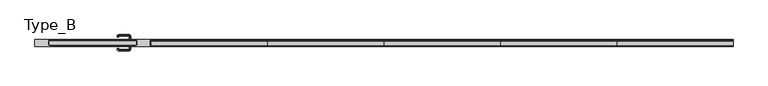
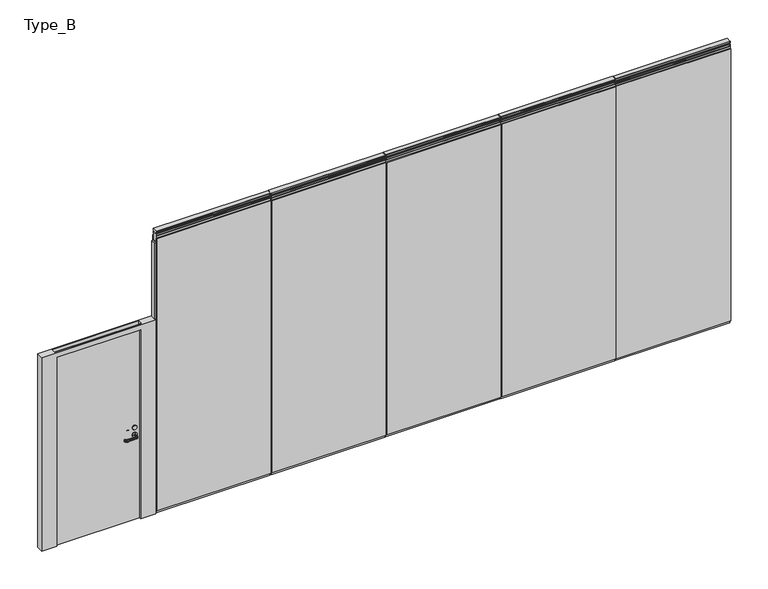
"""IFC4 building model written with IfcOpenShell, lengths in millimetres: proxy geometry, Planner Wall フラッシュパネル(Door) : Type_B."""

from ifc_helpers import new_model, si_unit, point, frame, frame_2d, origin, origin_with_axes, place, context, project, spatial, polyline, circle_curve, ellipse_curve, trimmed, segment, composite_curve, outline, extrude, faceted_brep, source, transform, mapped, element, save
from ifc_brep_helpers import plane_surface, cylinder_surface, revolved_surface, advanced_brep


def type_b_3c586b7c(model_context):
    return source(origin(), model_context, "Body", "SolidModel", [
        extrude(outline(polyline([(2369.2142857, 25.0), (1199.3571429, 25.0), (1199.3571429, 35.0), (2369.2142857, 35.0), (2369.2142857, 25.0)])), frame((0.0, 0.0, 25.0), z_axis=(0.0, 0.0, 1.0), x_axis=(1.0, 0.0, 0.0)), (0.0, 0.0, 1.0), 2950.0),
        extrude(outline(polyline([(2369.2142857, -35.0), (1199.3571429, -35.0), (1199.3571429, -25.0), (2369.2142857, -25.0), (2369.2142857, -35.0)])), frame((0.0, 0.0, 25.0), z_axis=(0.0, 0.0, 1.0), x_axis=(1.0, 0.0, 0.0)), (0.0, 0.0, 1.0), 2950.0),
        extrude(outline(polyline([(1199.3571429, -25.0), (1199.3571429, 25.0), (2363.7142857, 25.0), (2363.7142857, -25.0), (1199.3571429, -25.0)])), origin_with_axes(), (0.0, 0.0, 1.0), 65.0),
        extrude(outline(composite_curve([segment(polyline([(23.5, 3050.1000003), (26.5, 3047.1000003), (26.5, 3032.6)]), True, "CONTINUOUS"), segment(trimmed(circle_curve(frame_2d((25.0, 3032.6)), 1.5), [point((26.5, 3032.6))], [point((25.0, 3031.1))], False, "CARTESIAN"), True, "CONTINUOUS"), segment(polyline([(25.0, 3031.1), (9.0, 3031.1), (9.0, 3019.1000003), (23.5, 3019.1000003), (26.5, 3016.1000003), (26.5, 3001.5)]), True, "CONTINUOUS"), segment(trimmed(circle_curve(frame_2d((25.0, 3001.5)), 1.5), [point((26.5, 3001.5))], [point((25.0, 3000.0))], False, "CARTESIAN"), True, "CONTINUOUS"), segment(polyline([(25.0, 3000.0), (7.5, 3000.0), (7.5, 2994.5), (25.0, 2994.5), (25.0, 2935.0), (-25.0, 2935.0), (-25.0, 2994.5), (-7.5, 2994.5), (-7.5, 3000.0), (-25.0, 3000.0)]), True, "CONTINUOUS"), segment(trimmed(circle_curve(frame_2d((-25.0, 3001.5)), 1.5), [point((-25.0, 3000.0))], [point((-26.5, 3001.5))], False, "CARTESIAN"), True, "CONTINUOUS"), segment(polyline([(-26.5, 3001.5), (-26.5, 3016.1000003), (-23.5, 3019.1000003), (-9.0, 3019.1000003), (-9.0, 3031.1), (-25.0, 3031.1)]), True, "CONTINUOUS"), segment(trimmed(circle_curve(frame_2d((-25.0, 3032.6)), 1.5), [point((-25.0, 3031.1))], [point((-26.5, 3032.6))], False, "CARTESIAN"), True, "CONTINUOUS"), segment(polyline([(-26.5, 3032.6), (-26.5, 3047.1000003), (-23.5, 3050.1000003), (23.5, 3050.1000003)]), True, "CONTINUOUS")], self_intersect=False)), frame((1199.3571429, 0.0, 0.0), z_axis=(1.0, 0.0, 0.0), x_axis=(0.0, 1.0, 0.0)), (0.0, 0.0, 1.0), 1169.8571429),
        extrude(outline(polyline([(1185.8571429, -25.0), (1185.8571429, 25.0), (1199.3571429, 25.0), (1199.3571429, -25.0), (1185.8571429, -25.0)])), frame((0.0, 0.0, 53.0), z_axis=(0.0, 0.0, 1.0), x_axis=(1.0, 0.0, 0.0)), (0.0, 0.0, 1.0), 2869.0),
        extrude(outline(polyline([(3547.0714286, 25.0), (2377.2142857, 25.0), (2377.2142857, 35.0), (3547.0714286, 35.0), (3547.0714286, 25.0)])), frame((0.0, 0.0, 25.0), z_axis=(0.0, 0.0, 1.0), x_axis=(1.0, 0.0, 0.0)), (0.0, 0.0, 1.0), 2950.0),
        extrude(outline(polyline([(3547.0714286, -35.0), (2377.2142857, -35.0), (2377.2142857, -25.0), (3547.0714286, -25.0), (3547.0714286, -35.0)])), frame((0.0, 0.0, 25.0), z_axis=(0.0, 0.0, 1.0), x_axis=(1.0, 0.0, 0.0)), (0.0, 0.0, 1.0), 2950.0),
        extrude(outline(polyline([(2377.2142857, -25.0), (2377.2142857, 25.0), (3541.5714286, 25.0), (3541.5714286, -25.0), (2377.2142857, -25.0)])), origin_with_axes(), (0.0, 0.0, 1.0), 65.0),
        extrude(outline(composite_curve([segment(polyline([(23.5, 3050.1000003), (26.5, 3047.1000003), (26.5, 3032.6)]), True, "CONTINUOUS"), segment(trimmed(circle_curve(frame_2d((25.0, 3032.6)), 1.5), [point((26.5, 3032.6))], [point((25.0, 3031.1))], False, "CARTESIAN"), True, "CONTINUOUS"), segment(polyline([(25.0, 3031.1), (9.0, 3031.1), (9.0, 3019.1000003), (23.5, 3019.1000003), (26.5, 3016.1000003), (26.5, 3001.5)]), True, "CONTINUOUS"), segment(trimmed(circle_curve(frame_2d((25.0, 3001.5)), 1.5), [point((26.5, 3001.5))], [point((25.0, 3000.0))], False, "CARTESIAN"), True, "CONTINUOUS"), segment(polyline([(25.0, 3000.0), (7.5, 3000.0), (7.5, 2994.5), (25.0, 2994.5), (25.0, 2935.0), (-25.0, 2935.0), (-25.0, 2994.5), (-7.5, 2994.5), (-7.5, 3000.0), (-25.0, 3000.0)]), True, "CONTINUOUS"), segment(trimmed(circle_curve(frame_2d((-25.0, 3001.5)), 1.5), [point((-25.0, 3000.0))], [point((-26.5, 3001.5))], False, "CARTESIAN"), True, "CONTINUOUS"), segment(polyline([(-26.5, 3001.5), (-26.5, 3016.1000003), (-23.5, 3019.1000003), (-9.0, 3019.1000003), (-9.0, 3031.1), (-25.0, 3031.1)]), True, "CONTINUOUS"), segment(trimmed(circle_curve(frame_2d((-25.0, 3032.6)), 1.5), [point((-25.0, 3031.1))], [point((-26.5, 3032.6))], False, "CARTESIAN"), True, "CONTINUOUS"), segment(polyline([(-26.5, 3032.6), (-26.5, 3047.1000003), (-23.5, 3050.1000003), (23.5, 3050.1000003)]), True, "CONTINUOUS")], self_intersect=False)), frame((2377.2142857, 0.0, 0.0), z_axis=(1.0, 0.0, 0.0), x_axis=(0.0, 1.0, 0.0)), (0.0, 0.0, 1.0), 1169.8571429),
        extrude(outline(polyline([(2363.7142857, -25.0), (2363.7142857, 25.0), (2377.2142857, 25.0), (2377.2142857, -25.0), (2363.7142857, -25.0)])), frame((0.0, 0.0, 53.0), z_axis=(0.0, 0.0, 1.0), x_axis=(1.0, 0.0, 0.0)), (0.0, 0.0, 1.0), 2869.0),
        extrude(outline(polyline([(4724.9285714, 25.0), (3555.0714286, 25.0), (3555.0714286, 35.0), (4724.9285714, 35.0), (4724.9285714, 25.0)])), frame((0.0, 0.0, 25.0), z_axis=(0.0, 0.0, 1.0), x_axis=(1.0, 0.0, 0.0)), (0.0, 0.0, 1.0), 2950.0),
        extrude(outline(polyline([(4724.9285714, -35.0), (3555.0714286, -35.0), (3555.0714286, -25.0), (4724.9285714, -25.0), (4724.9285714, -35.0)])), frame((0.0, 0.0, 25.0), z_axis=(0.0, 0.0, 1.0), x_axis=(1.0, 0.0, 0.0)), (0.0, 0.0, 1.0), 2950.0),
        extrude(outline(polyline([(3555.0714286, -25.0), (3555.0714286, 25.0), (4719.4285714, 25.0), (4719.4285714, -25.0), (3555.0714286, -25.0)])), origin_with_axes(), (0.0, 0.0, 1.0), 65.0),
        extrude(outline(composite_curve([segment(polyline([(23.5, 3050.1000003), (26.5, 3047.1000003), (26.5, 3032.6)]), True, "CONTINUOUS"), segment(trimmed(circle_curve(frame_2d((25.0, 3032.6)), 1.5), [point((26.5, 3032.6))], [point((25.0, 3031.1))], False, "CARTESIAN"), True, "CONTINUOUS"), segment(polyline([(25.0, 3031.1), (9.0, 3031.1), (9.0, 3019.1000003), (23.5, 3019.1000003), (26.5, 3016.1000003), (26.5, 3001.5)]), True, "CONTINUOUS"), segment(trimmed(circle_curve(frame_2d((25.0, 3001.5)), 1.5), [point((26.5, 3001.5))], [point((25.0, 3000.0))], False, "CARTESIAN"), True, "CONTINUOUS"), segment(polyline([(25.0, 3000.0), (7.5, 3000.0), (7.5, 2994.5), (25.0, 2994.5), (25.0, 2935.0), (-25.0, 2935.0), (-25.0, 2994.5), (-7.5, 2994.5), (-7.5, 3000.0), (-25.0, 3000.0)]), True, "CONTINUOUS"), segment(trimmed(circle_curve(frame_2d((-25.0, 3001.5)), 1.5), [point((-25.0, 3000.0))], [point((-26.5, 3001.5))], False, "CARTESIAN"), True, "CONTINUOUS"), segment(polyline([(-26.5, 3001.5), (-26.5, 3016.1000003), (-23.5, 3019.1000003), (-9.0, 3019.1000003), (-9.0, 3031.1), (-25.0, 3031.1)]), True, "CONTINUOUS"), segment(trimmed(circle_curve(frame_2d((-25.0, 3032.6)), 1.5), [point((-25.0, 3031.1))], [point((-26.5, 3032.6))], False, "CARTESIAN"), True, "CONTINUOUS"), segment(polyline([(-26.5, 3032.6), (-26.5, 3047.1000003), (-23.5, 3050.1000003), (23.5, 3050.1000003)]), True, "CONTINUOUS")], self_intersect=False)), frame((3555.0714286, 0.0, 0.0), z_axis=(1.0, 0.0, 0.0), x_axis=(0.0, 1.0, 0.0)), (0.0, 0.0, 1.0), 1169.8571429),
        extrude(outline(polyline([(3541.5714286, -25.0), (3541.5714286, 25.0), (3555.0714286, 25.0), (3555.0714286, -25.0), (3541.5714286, -25.0)])), frame((0.0, 0.0, 53.0), z_axis=(0.0, 0.0, 1.0), x_axis=(1.0, 0.0, 0.0)), (0.0, 0.0, 1.0), 2869.0),
        extrude(outline(polyline([(5902.7857143, 25.0), (4732.9285714, 25.0), (4732.9285714, 35.0), (5902.7857143, 35.0), (5902.7857143, 25.0)])), frame((0.0, 0.0, 25.0), z_axis=(0.0, 0.0, 1.0), x_axis=(1.0, 0.0, 0.0)), (0.0, 0.0, 1.0), 2950.0),
        extrude(outline(polyline([(5902.7857143, -35.0), (4732.9285714, -35.0), (4732.9285714, -25.0), (5902.7857143, -25.0), (5902.7857143, -35.0)])), frame((0.0, 0.0, 25.0), z_axis=(0.0, 0.0, 1.0), x_axis=(1.0, 0.0, 0.0)), (0.0, 0.0, 1.0), 2950.0),
        extrude(outline(polyline([(4732.9285714, -25.0), (4732.9285714, 25.0), (5897.2857143, 25.0), (5897.2857143, -25.0), (4732.9285714, -25.0)])), origin_with_axes(), (0.0, 0.0, 1.0), 65.0),
        extrude(outline(composite_curve([segment(polyline([(23.5, 3050.1000003), (26.5, 3047.1000003), (26.5, 3032.6)]), True, "CONTINUOUS"), segment(trimmed(circle_curve(frame_2d((25.0, 3032.6)), 1.5), [point((26.5, 3032.6))], [point((25.0, 3031.1))], False, "CARTESIAN"), True, "CONTINUOUS"), segment(polyline([(25.0, 3031.1), (9.0, 3031.1), (9.0, 3019.1000003), (23.5, 3019.1000003), (26.5, 3016.1000003), (26.5, 3001.5)]), True, "CONTINUOUS"), segment(trimmed(circle_curve(frame_2d((25.0, 3001.5)), 1.5), [point((26.5, 3001.5))], [point((25.0, 3000.0))], False, "CARTESIAN"), True, "CONTINUOUS"), segment(polyline([(25.0, 3000.0), (7.5, 3000.0), (7.5, 2994.5), (25.0, 2994.5), (25.0, 2935.0), (-25.0, 2935.0), (-25.0, 2994.5), (-7.5, 2994.5), (-7.5, 3000.0), (-25.0, 3000.0)]), True, "CONTINUOUS"), segment(trimmed(circle_curve(frame_2d((-25.0, 3001.5)), 1.5), [point((-25.0, 3000.0))], [point((-26.5, 3001.5))], False, "CARTESIAN"), True, "CONTINUOUS"), segment(polyline([(-26.5, 3001.5), (-26.5, 3016.1000003), (-23.5, 3019.1000003), (-9.0, 3019.1000003), (-9.0, 3031.1), (-25.0, 3031.1)]), True, "CONTINUOUS"), segment(trimmed(circle_curve(frame_2d((-25.0, 3032.6)), 1.5), [point((-25.0, 3031.1))], [point((-26.5, 3032.6))], False, "CARTESIAN"), True, "CONTINUOUS"), segment(polyline([(-26.5, 3032.6), (-26.5, 3047.1000003), (-23.5, 3050.1000003), (23.5, 3050.1000003)]), True, "CONTINUOUS")], self_intersect=False)), frame((4732.9285714, 0.0, 0.0), z_axis=(1.0, 0.0, 0.0), x_axis=(0.0, 1.0, 0.0)), (0.0, 0.0, 1.0), 1169.8571429),
        extrude(outline(polyline([(4719.4285714, -25.0), (4719.4285714, 25.0), (4732.9285714, 25.0), (4732.9285714, -25.0), (4719.4285714, -25.0)])), frame((0.0, 0.0, 53.0), z_axis=(0.0, 0.0, 1.0), x_axis=(1.0, 0.0, 0.0)), (0.0, 0.0, 1.0), 2869.0),
        extrude(outline(polyline([(7080.6428571, 25.0), (5910.7857143, 25.0), (5910.7857143, 35.0), (7080.6428571, 35.0), (7080.6428571, 25.0)])), frame((0.0, 0.0, 25.0), z_axis=(0.0, 0.0, 1.0), x_axis=(1.0, 0.0, 0.0)), (0.0, 0.0, 1.0), 2950.0),
        extrude(outline(polyline([(7080.6428571, -35.0), (5910.7857143, -35.0), (5910.7857143, -25.0), (7080.6428571, -25.0), (7080.6428571, -35.0)])), frame((0.0, 0.0, 25.0), z_axis=(0.0, 0.0, 1.0), x_axis=(1.0, 0.0, 0.0)), (0.0, 0.0, 1.0), 2950.0),
        extrude(outline(polyline([(5910.7857143, -25.0), (5910.7857143, 25.0), (7075.1428571, 25.0), (7075.1428571, -25.0), (5910.7857143, -25.0)])), origin_with_axes(), (0.0, 0.0, 1.0), 65.0),
        extrude(outline(composite_curve([segment(polyline([(23.5, 3050.1000003), (26.5, 3047.1000003), (26.5, 3032.6)]), True, "CONTINUOUS"), segment(trimmed(circle_curve(frame_2d((25.0, 3032.6)), 1.5), [point((26.5, 3032.6))], [point((25.0, 3031.1))], False, "CARTESIAN"), True, "CONTINUOUS"), segment(polyline([(25.0, 3031.1), (9.0, 3031.1), (9.0, 3019.1000003), (23.5, 3019.1000003), (26.5, 3016.1000003), (26.5, 3001.5)]), True, "CONTINUOUS"), segment(trimmed(circle_curve(frame_2d((25.0, 3001.5)), 1.5), [point((26.5, 3001.5))], [point((25.0, 3000.0))], False, "CARTESIAN"), True, "CONTINUOUS"), segment(polyline([(25.0, 3000.0), (7.5, 3000.0), (7.5, 2994.5), (25.0, 2994.5), (25.0, 2935.0), (-25.0, 2935.0), (-25.0, 2994.5), (-7.5, 2994.5), (-7.5, 3000.0), (-25.0, 3000.0)]), True, "CONTINUOUS"), segment(trimmed(circle_curve(frame_2d((-25.0, 3001.5)), 1.5), [point((-25.0, 3000.0))], [point((-26.5, 3001.5))], False, "CARTESIAN"), True, "CONTINUOUS"), segment(polyline([(-26.5, 3001.5), (-26.5, 3016.1000003), (-23.5, 3019.1000003), (-9.0, 3019.1000003), (-9.0, 3031.1), (-25.0, 3031.1)]), True, "CONTINUOUS"), segment(trimmed(circle_curve(frame_2d((-25.0, 3032.6)), 1.5), [point((-25.0, 3031.1))], [point((-26.5, 3032.6))], False, "CARTESIAN"), True, "CONTINUOUS"), segment(polyline([(-26.5, 3032.6), (-26.5, 3047.1000003), (-23.5, 3050.1000003), (23.5, 3050.1000003)]), True, "CONTINUOUS")], self_intersect=False)), frame((5910.7857143, 0.0, 0.0), z_axis=(1.0, 0.0, 0.0), x_axis=(0.0, 1.0, 0.0)), (0.0, 0.0, 1.0), 1169.8571429),
        extrude(outline(polyline([(5897.2857143, -25.0), (5897.2857143, 25.0), (5910.7857143, 25.0), (5910.7857143, -25.0), (5897.2857143, -25.0)])), frame((0.0, 0.0, 53.0), z_axis=(0.0, 0.0, 1.0), x_axis=(1.0, 0.0, 0.0)), (0.0, 0.0, 1.0), 2869.0),
        extrude(outline(composite_curve([segment(trimmed(circle_curve(frame_2d((1000.0, 981.3571429)), 22.0), [point((1000.0, 1003.3571429))], [point((1000.0, 959.3571429))], False, "CARTESIAN"), True, "CONTINUOUS"), segment(trimmed(circle_curve(frame_2d((1000.0, 981.3571429)), 22.0), [point((1000.0, 959.3571429))], [point((1000.0, 1003.3571429))], False, "CARTESIAN"), True, "CONTINUOUS")], self_intersect=False)), frame((0.0, 23.5, 0.0), z_axis=(0.0, 1.0, 0.0), x_axis=(0.0, 0.0, 1.0)), (0.0, 0.0, 1.0), 10.0),
        extrude(outline(composite_curve([segment(trimmed(circle_curve(frame_2d((1000.0, 981.3571429)), 22.0), [point((1000.0, 1003.3571429))], [point((1000.0, 959.3571429))], False, "CARTESIAN"), True, "CONTINUOUS"), segment(trimmed(circle_curve(frame_2d((1000.0, 981.3571429)), 22.0), [point((1000.0, 959.3571429))], [point((1000.0, 1003.3571429))], False, "CARTESIAN"), True, "CONTINUOUS")], self_intersect=False)), frame((0.0, -26.5, 0.0), z_axis=(0.0, 1.0, 0.0), x_axis=(0.0, 0.0, 1.0)), (0.0, 0.0, 1.0), 10.0),
        advanced_brep(
        [(983.3571429, 33.5, 930.0), (979.3571429, 33.5, 930.0), (974.3571429, 33.5, 925.0), (974.3571429, 33.5, 915.0477623), (979.3571429, 33.5, 910.0477623), (983.3571429, 33.5, 910.0477623), (988.3571429, 33.5, 915.0477623), (988.3571429, 33.5, 925.0), (988.3571429, 68.5, 925.0), (983.3571429, 68.5, 930.0), (988.3571429, 68.5, 915.0477623), (983.3571429, 68.5, 910.0477623), (979.3571429, 68.5, 910.0477623), (971.3571429, 76.5, 910.0477623), (871.3571429, 76.5, 910.0477623), (863.3571429, 68.5, 910.0477623), (863.3571429, 63.5, 910.0477623), (859.3571429, 63.5, 910.0477623), (859.3571429, 68.5, 910.0477623), (871.3571429, 80.5, 910.0477623), (971.3571429, 80.5, 910.0477623), (974.3571429, 68.5, 915.0477623), (974.3571429, 68.5, 925.0), (979.3571429, 68.5, 930.0), (971.3571429, 80.5, 930.0), (871.3571429, 80.5, 930.0), (859.3571429, 68.5, 930.0), (859.3571429, 63.5, 930.0), (863.3571429, 63.5, 930.0), (863.3571429, 68.5, 930.0), (871.3571429, 76.5, 930.0), (971.3571429, 76.5, 930.0), (971.3571429, 85.5, 925.0), (971.3571429, 85.5, 915.0477623), (971.3571429, 71.5, 915.0477623), (971.3571429, 71.5, 925.0), (871.3571429, 85.5, 925.0), (871.3571429, 85.5, 915.0477623), (871.3571429, 71.5, 915.0477623), (871.3571429, 71.5, 925.0), (854.3571429, 68.5, 925.0), (854.3571429, 68.5, 915.0477623), (868.3571429, 68.5, 915.0477623), (868.3571429, 68.5, 925.0), (854.3571429, 63.5, 925.0), (854.3571429, 63.5, 915.0477623), (868.3571429, 63.5, 915.0477623), (868.3571429, 63.5, 925.0)],
        [
            (0, 1),
            (1, 2, circle_curve(frame((979.3571429, 33.5, 925.0), z_axis=(0.0, -1.0, 0.0), x_axis=(1.0, 0.0, 0.0)), 5.0)),
            (2, 3),
            (3, 4, circle_curve(frame((979.3571429, 33.5, 915.0477623), z_axis=(0.0, -1.0, 0.0), x_axis=(1.0, 0.0, 0.0)), 5.0)),
            (4, 5),
            (5, 6, circle_curve(frame((983.3571429, 33.5, 915.0477623), z_axis=(0.0, -1.0, 0.0), x_axis=(1.0, 0.0, 0.0)), 5.0)),
            (6, 7),
            (7, 0, circle_curve(frame((983.3571429, 33.5, 925.0), z_axis=(0.0, -1.0, 0.0), x_axis=(1.0, 0.0, 0.0)), 5.0)),
            (7, 8),
            (8, 9, circle_curve(frame((983.3571429, 68.5, 925.0), z_axis=(0.0, -1.0, 0.0), x_axis=(1.0, 0.0, 0.0)), 5.0)),
            (9, 0),
            (6, 10),
            (10, 8),
            (5, 11),
            (11, 10, circle_curve(frame((983.3571429, 68.5, 915.0477623), z_axis=(0.0, -1.0, 0.0), x_axis=(1.0, 0.0, 0.0)), 5.0)),
            (4, 12),
            (12, 13, circle_curve(frame((971.3571429, 68.5, 910.0477623), z_axis=(0.0, 0.0, 1.0), x_axis=(1.0, 0.0, 0.0)), 8.0)),
            (13, 14),
            (14, 15, circle_curve(frame((871.3571429, 68.5, 910.0477623), z_axis=(0.0, 0.0, 1.0), x_axis=(0.0, 1.0, 0.0)), 8.0)),
            (15, 16),
            (16, 17),
            (17, 18),
            (18, 19, circle_curve(frame((871.3571429, 68.5, 910.0477623), z_axis=(0.0, 0.0, -1.0), x_axis=(0.0, 1.0, 0.0)), 12.0)),
            (19, 20),
            (20, 11, circle_curve(frame((971.3571429, 68.5, 910.0477623), z_axis=(0.0, 0.0, -1.0), x_axis=(1.0, 0.0, 0.0)), 12.0)),
            (3, 21),
            (21, 12, circle_curve(frame((979.3571429, 68.5, 915.0477623), z_axis=(0.0, -1.0, 0.0), x_axis=(1.0, 0.0, 0.0)), 5.0)),
            (2, 22),
            (22, 21),
            (1, 23),
            (23, 22, circle_curve(frame((979.3571429, 68.5, 925.0), z_axis=(0.0, -1.0, 0.0), x_axis=(1.0, 0.0, 0.0)), 5.0)),
            (9, 24, circle_curve(frame((971.3571429, 68.5, 930.0), z_axis=(0.0, 0.0, 1.0), x_axis=(1.0, 0.0, 0.0)), 12.0)),
            (24, 25),
            (25, 26, circle_curve(frame((871.3571429, 68.5, 930.0), z_axis=(0.0, 0.0, 1.0), x_axis=(0.0, 1.0, 0.0)), 12.0)),
            (26, 27),
            (27, 28),
            (28, 29),
            (29, 30, circle_curve(frame((871.3571429, 68.5, 930.0), z_axis=(0.0, 0.0, -1.0), x_axis=(0.0, 1.0, 0.0)), 8.0)),
            (30, 31),
            (31, 23, circle_curve(frame((971.3571429, 68.5, 930.0), z_axis=(0.0, 0.0, -1.0), x_axis=(1.0, 0.0, 0.0)), 8.0)),
            (32, 24, circle_curve(frame((971.3571429, 80.5, 925.0), z_axis=(1.0, 0.0, 0.0), x_axis=(0.0, 1.0, 0.0)), 5.0)),
            (8, 32, circle_curve(frame((971.3571429, 68.5, 925.0), z_axis=(0.0, 0.0, 1.0), x_axis=(1.0, 0.0, 0.0)), 17.0)),
            (33, 32),
            (10, 33, circle_curve(frame((971.3571429, 68.5, 915.0477623), z_axis=(0.0, 0.0, 1.0), x_axis=(1.0, 0.0, 0.0)), 17.0)),
            (20, 33, circle_curve(frame((971.3571429, 80.5, 915.0477623), z_axis=(1.0, 0.0, 0.0), x_axis=(0.0, 1.0, 0.0)), 5.0)),
            (34, 13, circle_curve(frame((971.3571429, 76.5, 915.0477623), z_axis=(1.0, 0.0, 0.0), x_axis=(0.0, 1.0, 0.0)), 5.0)),
            (21, 34, circle_curve(frame((971.3571429, 68.5, 915.0477623), z_axis=(0.0, 0.0, 1.0), x_axis=(1.0, 0.0, 0.0)), 3.0)),
            (35, 34),
            (22, 35, circle_curve(frame((971.3571429, 68.5, 925.0), z_axis=(0.0, 0.0, 1.0), x_axis=(1.0, 0.0, 0.0)), 3.0)),
            (31, 35, circle_curve(frame((971.3571429, 76.5, 925.0), z_axis=(1.0, 0.0, 0.0), x_axis=(0.0, 1.0, 0.0)), 5.0)),
            (32, 36),
            (36, 25, circle_curve(frame((871.3571429, 80.5, 925.0), z_axis=(1.0, 0.0, 0.0), x_axis=(0.0, 1.0, 0.0)), 5.0)),
            (33, 37),
            (37, 36),
            (19, 37, circle_curve(frame((871.3571429, 80.5, 915.0477623), z_axis=(1.0, 0.0, 0.0), x_axis=(0.0, 1.0, 0.0)), 5.0)),
            (34, 38),
            (38, 14, circle_curve(frame((871.3571429, 76.5, 915.0477623), z_axis=(1.0, 0.0, 0.0), x_axis=(0.0, 1.0, 0.0)), 5.0)),
            (35, 39),
            (39, 38),
            (30, 39, circle_curve(frame((871.3571429, 76.5, 925.0), z_axis=(1.0, 0.0, 0.0), x_axis=(0.0, 1.0, 0.0)), 5.0)),
            (40, 26, circle_curve(frame((859.3571429, 68.5, 925.0), z_axis=(0.0, 1.0, 0.0), x_axis=(-1.0, 0.0, 0.0)), 5.0)),
            (36, 40, circle_curve(frame((871.3571429, 68.5, 925.0), z_axis=(0.0, 0.0, 1.0), x_axis=(0.0, 1.0, 0.0)), 17.0)),
            (41, 40),
            (37, 41, circle_curve(frame((871.3571429, 68.5, 915.0477623), z_axis=(0.0, 0.0, 1.0), x_axis=(0.0, 1.0, 0.0)), 17.0)),
            (18, 41, circle_curve(frame((859.3571429, 68.5, 915.0477623), z_axis=(0.0, 1.0, 0.0), x_axis=(-1.0, 0.0, 0.0)), 5.0)),
            (42, 15, circle_curve(frame((863.3571429, 68.5, 915.0477623), z_axis=(0.0, 1.0, 0.0), x_axis=(-1.0, 0.0, 0.0)), 5.0)),
            (38, 42, circle_curve(frame((871.3571429, 68.5, 915.0477623), z_axis=(0.0, 0.0, 1.0), x_axis=(0.0, 1.0, 0.0)), 3.0)),
            (43, 42),
            (39, 43, circle_curve(frame((871.3571429, 68.5, 925.0), z_axis=(0.0, 0.0, 1.0), x_axis=(0.0, 1.0, 0.0)), 3.0)),
            (29, 43, circle_curve(frame((863.3571429, 68.5, 925.0), z_axis=(0.0, 1.0, 0.0), x_axis=(-1.0, 0.0, 0.0)), 5.0)),
            (27, 44, circle_curve(frame((859.3571429, 63.5, 925.0), z_axis=(0.0, -1.0, 0.0), x_axis=(-1.0, 0.0, 0.0)), 5.0)),
            (44, 45),
            (45, 17, circle_curve(frame((859.3571429, 63.5, 915.0477623), z_axis=(0.0, -1.0, 0.0), x_axis=(-1.0, 0.0, 0.0)), 5.0)),
            (16, 46, circle_curve(frame((863.3571429, 63.5, 915.0477623), z_axis=(0.0, -1.0, 0.0), x_axis=(-1.0, 0.0, 0.0)), 5.0)),
            (46, 47),
            (47, 28, circle_curve(frame((863.3571429, 63.5, 925.0), z_axis=(0.0, -1.0, 0.0), x_axis=(-1.0, 0.0, 0.0)), 5.0)),
            (40, 44),
            (41, 45),
            (42, 46),
            (43, 47),
        ],
        [
            plane_surface(frame((991.5551819, 33.5, 920.0), z_axis=(0.0, -1.0, 0.0), x_axis=(0.0, 0.0, 1.0))),
            cylinder_surface(frame((983.3571429, 33.5, 925.0), z_axis=(0.0, -1.0, 0.0), x_axis=(1.0, 0.0, 0.0)), 5.0),
            plane_surface(frame((988.3571429, 33.5, 925.0), z_axis=(1.0, 0.0, 0.0), x_axis=(0.0, 1.0, 0.0))),
            cylinder_surface(frame((983.3571429, 33.5, 915.0477623), z_axis=(0.0, -1.0, 0.0), x_axis=(1.0, 0.0, 0.0)), 5.0),
            plane_surface(frame((983.3571429, 33.5, 910.0477623), z_axis=(0.0, 0.0, -1.0), x_axis=(0.0, 1.0, 0.0))),
            cylinder_surface(frame((979.3571429, 33.5, 915.0477623), z_axis=(0.0, -1.0, 0.0), x_axis=(1.0, 0.0, 0.0)), 5.0),
            plane_surface(frame((974.3571429, 33.5, 915.0477623), z_axis=(-1.0, 0.0, 0.0), x_axis=(0.0, 1.0, 0.0))),
            cylinder_surface(frame((979.3571429, 33.5, 925.0), z_axis=(0.0, -1.0, 0.0), x_axis=(1.0, 0.0, 0.0)), 5.0),
            plane_surface(frame((979.3571429, 33.5, 930.0), z_axis=(0.0, 0.0, 1.0), x_axis=(0.0, 1.0, 0.0))),
            revolved_surface(trimmed(ellipse_curve(frame((983.3571429, 68.5, 925.0), z_axis=(0.0, 1.0, 0.0), x_axis=(1.0, 0.0, 0.0)), 5.0, 5.0), [point((983.3571429, 68.5, 930.0))], [point((988.3571429, 68.5, 925.0))], True, "CARTESIAN"), (971.3571429, 68.5, 920.0), (0.0, 0.0, -1.0)),
            cylinder_surface(frame((971.3571429, 68.5, 920.0), z_axis=(0.0, 0.0, -1.0), x_axis=(1.0, 0.0, 0.0)), 17.0),
            revolved_surface(trimmed(ellipse_curve(frame((983.3571429, 68.5, 915.0477623), z_axis=(0.0, 1.0, 0.0), x_axis=(1.0, 0.0, 0.0)), 5.0, 5.0), [point((988.3571429, 68.5, 915.0477623))], [point((983.3571429, 68.5, 910.0477623))], True, "CARTESIAN"), (971.3571429, 68.5, 920.0), (0.0, 0.0, -1.0)),
            revolved_surface(trimmed(ellipse_curve(frame((979.3571429, 68.5, 915.0477623), z_axis=(0.0, 1.0, 0.0), x_axis=(1.0, 0.0, 0.0)), 5.0, 5.0), [point((979.3571429, 68.5, 910.0477623))], [point((974.3571429, 68.5, 915.0477623))], True, "CARTESIAN"), (971.3571429, 68.5, 920.0), (0.0, 0.0, -1.0)),
            revolved_surface(polyline([(974.3571429, 68.5, 915.0477623), (974.3571429, 68.5, 925.0)]), (971.3571429, 68.5, 920.0), (0.0, 0.0, -1.0)),
            revolved_surface(trimmed(ellipse_curve(frame((979.3571429, 68.5, 925.0), z_axis=(0.0, 1.0, 0.0), x_axis=(1.0, 0.0, 0.0)), 5.0, 5.0), [point((974.3571429, 68.5, 925.0))], [point((979.3571429, 68.5, 930.0))], True, "CARTESIAN"), (971.3571429, 68.5, 920.0), (0.0, 0.0, -1.0)),
            cylinder_surface(frame((971.3571429, 80.5, 925.0), z_axis=(1.0, 0.0, 0.0), x_axis=(0.0, 1.0, 0.0)), 5.0),
            plane_surface(frame((971.3571429, 85.5, 925.0), z_axis=(0.0, 1.0, 0.0), x_axis=(-1.0, 0.0, 0.0))),
            cylinder_surface(frame((971.3571429, 80.5, 915.0477623), z_axis=(1.0, 0.0, 0.0), x_axis=(0.0, 1.0, 0.0)), 5.0),
            cylinder_surface(frame((971.3571429, 76.5, 915.0477623), z_axis=(1.0, 0.0, 0.0), x_axis=(0.0, 1.0, 0.0)), 5.0),
            plane_surface(frame((971.3571429, 71.5, 915.0477623), z_axis=(0.0, -1.0, 0.0), x_axis=(-1.0, 0.0, 0.0))),
            cylinder_surface(frame((971.3571429, 76.5, 925.0), z_axis=(1.0, 0.0, 0.0), x_axis=(0.0, 1.0, 0.0)), 5.0),
            revolved_surface(trimmed(ellipse_curve(frame((871.3571429, 80.5, 925.0), z_axis=(-1.0, 0.0, 0.0), x_axis=(0.0, 1.0, 0.0)), 5.0, 5.0), [point((871.3571429, 80.5, 930.0))], [point((871.3571429, 85.5, 925.0))], True, "CARTESIAN"), (871.3571429, 68.5, 920.0), (0.0, 0.0, -1.0)),
            cylinder_surface(frame((871.3571429, 68.5, 920.0), z_axis=(0.0, 0.0, -1.0), x_axis=(0.0, 1.0, 0.0)), 17.0),
            revolved_surface(trimmed(ellipse_curve(frame((871.3571429, 80.5, 915.0477623), z_axis=(-1.0, 0.0, 0.0), x_axis=(0.0, 1.0, 0.0)), 5.0, 5.0), [point((871.3571429, 85.5, 915.0477623))], [point((871.3571429, 80.5, 910.0477623))], True, "CARTESIAN"), (871.3571429, 68.5, 920.0), (0.0, 0.0, -1.0)),
            revolved_surface(trimmed(ellipse_curve(frame((871.3571429, 76.5, 915.0477623), z_axis=(-1.0, 0.0, 0.0), x_axis=(0.0, 1.0, 0.0)), 5.0, 5.0), [point((871.3571429, 76.5, 910.0477623))], [point((871.3571429, 71.5, 915.0477623))], True, "CARTESIAN"), (871.3571429, 68.5, 920.0), (0.0, 0.0, -1.0)),
            revolved_surface(polyline([(871.3571429, 71.5, 915.0477623), (871.3571429, 71.5, 925.0)]), (871.3571429, 68.5, 920.0), (0.0, 0.0, -1.0)),
            revolved_surface(trimmed(ellipse_curve(frame((871.3571429, 76.5, 925.0), z_axis=(-1.0, 0.0, 0.0), x_axis=(0.0, 1.0, 0.0)), 5.0, 5.0), [point((871.3571429, 71.5, 925.0))], [point((871.3571429, 76.5, 930.0))], True, "CARTESIAN"), (871.3571429, 68.5, 920.0), (0.0, 0.0, -1.0)),
            plane_surface(frame((871.5551819, 63.5, 920.0), z_axis=(0.0, -1.0, 0.0), x_axis=(0.0, 0.0, -1.0))),
            cylinder_surface(frame((859.3571429, 68.5, 925.0), z_axis=(0.0, 1.0, 0.0), x_axis=(-1.0, 0.0, 0.0)), 5.0),
            plane_surface(frame((854.3571429, 68.5, 925.0), z_axis=(-1.0, 0.0, 0.0), x_axis=(0.0, -1.0, 0.0))),
            cylinder_surface(frame((859.3571429, 68.5, 915.0477623), z_axis=(0.0, 1.0, 0.0), x_axis=(-1.0, 0.0, 0.0)), 5.0),
            cylinder_surface(frame((863.3571429, 68.5, 915.0477623), z_axis=(0.0, 1.0, 0.0), x_axis=(-1.0, 0.0, 0.0)), 5.0),
            plane_surface(frame((868.3571429, 68.5, 915.0477623), z_axis=(1.0, 0.0, 0.0), x_axis=(0.0, -1.0, 0.0))),
            cylinder_surface(frame((863.3571429, 68.5, 925.0), z_axis=(0.0, 1.0, 0.0), x_axis=(-1.0, 0.0, 0.0)), 5.0),
        ],
        [
            (0, [[1, 2, 3, 4, 5, 6, 7, 8]]),
            (1, [[9, 10, 11, -8]]),
            (2, [[12, 13, -9, -7]]),
            (3, [[14, 15, -12, -6]]),
            (4, [[16, 17, 18, 19, 20, 21, 22, 23, 24, 25, -14, -5]]),
            (5, [[26, 27, -16, -4]]),
            (6, [[28, 29, -26, -3]]),
            (7, [[30, 31, -28, -2]]),
            (8, [[-11, 32, 33, 34, 35, 36, 37, 38, 39, 40, -30, -1]]),
            (9, [[41, -32, -10, 42]]),
            (10, [[43, -42, -13, 44]]),
            (11, [[45, -44, -15, -25]]),
            (12, [[46, -17, -27, 47]]),
            (13, [[48, -47, -29, 49]]),
            (14, [[50, -49, -31, -40]]),
            (15, [[51, 52, -33, -41]]),
            (16, [[53, 54, -51, -43]]),
            (17, [[-24, 55, -53, -45]]),
            (18, [[56, 57, -18, -46]]),
            (19, [[58, 59, -56, -48]]),
            (20, [[-39, 60, -58, -50]]),
            (21, [[61, -34, -52, 62]]),
            (22, [[63, -62, -54, 64]]),
            (23, [[65, -64, -55, -23]]),
            (24, [[66, -19, -57, 67]]),
            (25, [[68, -67, -59, 69]]),
            (26, [[70, -69, -60, -38]]),
            (27, [[71, 72, 73, -21, 74, 75, 76, -36]]),
            (28, [[77, -71, -35, -61]]),
            (29, [[78, -72, -77, -63]]),
            (30, [[-22, -73, -78, -65]]),
            (31, [[79, -74, -20, -66]]),
            (32, [[80, -75, -79, -68]]),
            (33, [[-37, -76, -80, -70]]),
        ],
    ),
        advanced_brep(
        [(979.3571429, -26.5, 910.0), (974.3571429, -26.5, 915.0), (974.3571429, -26.5, 925.0), (979.3571429, -26.5, 930.0), (983.3571429, -26.5, 930.0), (988.3571429, -26.5, 925.0), (988.3571429, -26.5, 915.0), (983.3571429, -26.5, 910.0), (983.3571429, -61.5, 910.0), (971.3571429, -73.5, 910.0), (871.3571429, -73.5, 910.0), (859.3571429, -61.5, 910.0), (859.3571429, -56.5, 910.0), (863.3571429, -56.5, 910.0), (863.3571429, -61.5, 910.0), (871.3571429, -69.5, 910.0), (971.3571429, -69.5, 910.0), (979.3571429, -61.5, 910.0), (988.3571429, -61.5, 915.0), (988.3571429, -61.5, 925.0), (983.3571429, -61.5, 930.0), (979.3571429, -61.5, 930.0), (971.3571429, -69.5, 930.0), (871.3571429, -69.5, 930.0), (863.3571429, -61.5, 930.0), (863.3571429, -56.5, 930.0), (859.3571429, -56.5, 930.0), (859.3571429, -61.5, 930.0), (871.3571429, -73.5, 930.0), (971.3571429, -73.5, 930.0), (974.3571429, -61.5, 925.0), (974.3571429, -61.5, 915.0), (971.3571429, -78.5, 915.0), (971.3571429, -78.5, 925.0), (971.3571429, -64.5, 925.0), (971.3571429, -64.5, 915.0), (871.3571429, -78.5, 915.0), (871.3571429, -78.5, 925.0), (871.3571429, -64.5, 925.0), (871.3571429, -64.5, 915.0), (854.3571429, -61.5, 915.0), (854.3571429, -61.5, 925.0), (868.3571429, -61.5, 925.0), (868.3571429, -61.5, 915.0), (854.3571429, -56.5, 915.0), (854.3571429, -56.5, 925.0), (868.3571429, -56.5, 925.0), (868.3571429, -56.5, 915.0)],
        [
            (0, 1, circle_curve(frame((979.3571429, -26.5, 915.0), z_axis=(0.0, 1.0, 0.0), x_axis=(-1.0, 0.0, 0.0)), 5.0)),
            (1, 2),
            (2, 3, circle_curve(frame((979.3571429, -26.5, 925.0), z_axis=(0.0, 1.0, 0.0), x_axis=(-1.0, 0.0, 0.0)), 5.0)),
            (3, 4),
            (4, 5, circle_curve(frame((983.3571429, -26.5, 925.0), z_axis=(0.0, 1.0, 0.0), x_axis=(-1.0, 0.0, 0.0)), 5.0)),
            (5, 6),
            (6, 7, circle_curve(frame((983.3571429, -26.5, 915.0), z_axis=(0.0, 1.0, 0.0), x_axis=(-1.0, 0.0, 0.0)), 5.0)),
            (7, 0),
            (7, 8),
            (8, 9, circle_curve(frame((971.3571429, -61.5, 910.0), z_axis=(0.0, 0.0, -1.0), x_axis=(1.0, 0.0, 0.0)), 12.0)),
            (9, 10),
            (10, 11, circle_curve(frame((871.3571429, -61.5, 910.0), z_axis=(0.0, 0.0, -1.0), x_axis=(0.0, -1.0, 0.0)), 12.0)),
            (11, 12),
            (12, 13),
            (13, 14),
            (14, 15, circle_curve(frame((871.3571429, -61.5, 910.0), z_axis=(0.0, 0.0, 1.0), x_axis=(0.0, -1.0, 0.0)), 8.0)),
            (15, 16),
            (16, 17, circle_curve(frame((971.3571429, -61.5, 910.0), z_axis=(0.0, 0.0, 1.0), x_axis=(1.0, 0.0, 0.0)), 8.0)),
            (17, 0),
            (6, 18),
            (18, 8, circle_curve(frame((983.3571429, -61.5, 915.0), z_axis=(0.0, 1.0, 0.0), x_axis=(-1.0, 0.0, 0.0)), 5.0)),
            (5, 19),
            (19, 18),
            (4, 20),
            (20, 19, circle_curve(frame((983.3571429, -61.5, 925.0), z_axis=(0.0, 1.0, 0.0), x_axis=(-1.0, 0.0, 0.0)), 5.0)),
            (3, 21),
            (21, 22, circle_curve(frame((971.3571429, -61.5, 930.0), z_axis=(0.0, 0.0, -1.0), x_axis=(1.0, 0.0, 0.0)), 8.0)),
            (22, 23),
            (23, 24, circle_curve(frame((871.3571429, -61.5, 930.0), z_axis=(0.0, 0.0, -1.0), x_axis=(0.0, -1.0, 0.0)), 8.0)),
            (24, 25),
            (25, 26),
            (26, 27),
            (27, 28, circle_curve(frame((871.3571429, -61.5, 930.0), z_axis=(0.0, 0.0, 1.0), x_axis=(0.0, -1.0, 0.0)), 12.0)),
            (28, 29),
            (29, 20, circle_curve(frame((971.3571429, -61.5, 930.0), z_axis=(0.0, 0.0, 1.0), x_axis=(1.0, 0.0, 0.0)), 12.0)),
            (2, 30),
            (30, 21, circle_curve(frame((979.3571429, -61.5, 925.0), z_axis=(0.0, 1.0, 0.0), x_axis=(-1.0, 0.0, 0.0)), 5.0)),
            (1, 31),
            (31, 30),
            (17, 31, circle_curve(frame((979.3571429, -61.5, 915.0), z_axis=(0.0, 1.0, 0.0), x_axis=(-1.0, 0.0, 0.0)), 5.0)),
            (32, 9, circle_curve(frame((971.3571429, -73.5, 915.0), z_axis=(1.0, 0.0, 0.0), x_axis=(0.0, 1.0, 0.0)), 5.0)),
            (18, 32, circle_curve(frame((971.3571429, -61.5, 915.0), z_axis=(0.0, 0.0, -1.0), x_axis=(1.0, 0.0, 0.0)), 17.0)),
            (33, 32),
            (19, 33, circle_curve(frame((971.3571429, -61.5, 925.0), z_axis=(0.0, 0.0, -1.0), x_axis=(1.0, 0.0, 0.0)), 17.0)),
            (29, 33, circle_curve(frame((971.3571429, -73.5, 925.0), z_axis=(1.0, 0.0, 0.0), x_axis=(0.0, 1.0, 0.0)), 5.0)),
            (34, 22, circle_curve(frame((971.3571429, -69.5, 925.0), z_axis=(1.0, 0.0, 0.0), x_axis=(0.0, 1.0, 0.0)), 5.0)),
            (30, 34, circle_curve(frame((971.3571429, -61.5, 925.0), z_axis=(0.0, 0.0, -1.0), x_axis=(1.0, 0.0, 0.0)), 3.0)),
            (35, 34),
            (31, 35, circle_curve(frame((971.3571429, -61.5, 915.0), z_axis=(0.0, 0.0, -1.0), x_axis=(1.0, 0.0, 0.0)), 3.0)),
            (16, 35, circle_curve(frame((971.3571429, -69.5, 915.0), z_axis=(1.0, 0.0, 0.0), x_axis=(0.0, 1.0, 0.0)), 5.0)),
            (32, 36),
            (36, 10, circle_curve(frame((871.3571429, -73.5, 915.0), z_axis=(1.0, 0.0, 0.0), x_axis=(0.0, 1.0, 0.0)), 5.0)),
            (33, 37),
            (37, 36),
            (28, 37, circle_curve(frame((871.3571429, -73.5, 925.0), z_axis=(1.0, 0.0, 0.0), x_axis=(0.0, 1.0, 0.0)), 5.0)),
            (34, 38),
            (38, 23, circle_curve(frame((871.3571429, -69.5, 925.0), z_axis=(1.0, 0.0, 0.0), x_axis=(0.0, 1.0, 0.0)), 5.0)),
            (35, 39),
            (39, 38),
            (15, 39, circle_curve(frame((871.3571429, -69.5, 915.0), z_axis=(1.0, 0.0, 0.0), x_axis=(0.0, 1.0, 0.0)), 5.0)),
            (40, 11, circle_curve(frame((859.3571429, -61.5, 915.0), z_axis=(0.0, -1.0, 0.0), x_axis=(1.0, 0.0, 0.0)), 5.0)),
            (36, 40, circle_curve(frame((871.3571429, -61.5, 915.0), z_axis=(0.0, 0.0, -1.0), x_axis=(0.0, -1.0, 0.0)), 17.0)),
            (41, 40),
            (37, 41, circle_curve(frame((871.3571429, -61.5, 925.0), z_axis=(0.0, 0.0, -1.0), x_axis=(0.0, -1.0, 0.0)), 17.0)),
            (27, 41, circle_curve(frame((859.3571429, -61.5, 925.0), z_axis=(0.0, -1.0, 0.0), x_axis=(1.0, 0.0, 0.0)), 5.0)),
            (42, 24, circle_curve(frame((863.3571429, -61.5, 925.0), z_axis=(0.0, -1.0, 0.0), x_axis=(1.0, 0.0, 0.0)), 5.0)),
            (38, 42, circle_curve(frame((871.3571429, -61.5, 925.0), z_axis=(0.0, 0.0, -1.0), x_axis=(0.0, -1.0, 0.0)), 3.0)),
            (43, 42),
            (39, 43, circle_curve(frame((871.3571429, -61.5, 915.0), z_axis=(0.0, 0.0, -1.0), x_axis=(0.0, -1.0, 0.0)), 3.0)),
            (14, 43, circle_curve(frame((863.3571429, -61.5, 915.0), z_axis=(0.0, -1.0, 0.0), x_axis=(1.0, 0.0, 0.0)), 5.0)),
            (12, 44, circle_curve(frame((859.3571429, -56.5, 915.0), z_axis=(0.0, 1.0, 0.0), x_axis=(1.0, 0.0, 0.0)), 5.0)),
            (44, 45),
            (45, 26, circle_curve(frame((859.3571429, -56.5, 925.0), z_axis=(0.0, 1.0, 0.0), x_axis=(1.0, 0.0, 0.0)), 5.0)),
            (25, 46, circle_curve(frame((863.3571429, -56.5, 925.0), z_axis=(0.0, 1.0, 0.0), x_axis=(1.0, 0.0, 0.0)), 5.0)),
            (46, 47),
            (47, 13, circle_curve(frame((863.3571429, -56.5, 915.0), z_axis=(0.0, 1.0, 0.0), x_axis=(1.0, 0.0, 0.0)), 5.0)),
            (40, 44),
            (41, 45),
            (42, 46),
            (43, 47),
        ],
        [
            plane_surface(frame((991.5551819, -26.5, 920.0), z_axis=(0.0, 1.0, 0.0), x_axis=(0.0, 0.0, -1.0))),
            plane_surface(frame((979.3571429, -26.5, 910.0), z_axis=(0.0, 0.0, -1.0), x_axis=(0.0, -1.0, 0.0))),
            cylinder_surface(frame((983.3571429, -26.5, 915.0), z_axis=(0.0, 1.0, 0.0), x_axis=(-1.0, 0.0, 0.0)), 5.0),
            plane_surface(frame((988.3571429, -26.5, 915.0), z_axis=(1.0, 0.0, 0.0), x_axis=(0.0, -1.0, 0.0))),
            cylinder_surface(frame((983.3571429, -26.5, 925.0), z_axis=(0.0, 1.0, 0.0), x_axis=(-1.0, 0.0, 0.0)), 5.0),
            plane_surface(frame((983.3571429, -26.5, 930.0), z_axis=(0.0, 0.0, 1.0), x_axis=(0.0, -1.0, 0.0))),
            cylinder_surface(frame((979.3571429, -26.5, 925.0), z_axis=(0.0, 1.0, 0.0), x_axis=(-1.0, 0.0, 0.0)), 5.0),
            plane_surface(frame((974.3571429, -26.5, 925.0), z_axis=(-1.0, 0.0, 0.0), x_axis=(0.0, -1.0, 0.0))),
            cylinder_surface(frame((979.3571429, -26.5, 915.0), z_axis=(0.0, 1.0, 0.0), x_axis=(-1.0, 0.0, 0.0)), 5.0),
            revolved_surface(trimmed(ellipse_curve(frame((983.3571429, -61.5, 915.0), z_axis=(0.0, -1.0, 0.0), x_axis=(-1.0, 0.0, 0.0)), 5.0, 5.0), [point((983.3571429, -61.5, 910.0))], [point((988.3571429, -61.5, 915.0))], True, "CARTESIAN"), (971.3571429, -61.5, 920.0), (0.0, 0.0, 1.0)),
            cylinder_surface(frame((971.3571429, -61.5, 920.0), z_axis=(0.0, 0.0, 1.0), x_axis=(1.0, 0.0, 0.0)), 17.0),
            revolved_surface(trimmed(ellipse_curve(frame((983.3571429, -61.5, 925.0), z_axis=(0.0, -1.0, 0.0), x_axis=(-1.0, 0.0, 0.0)), 5.0, 5.0), [point((988.3571429, -61.5, 925.0))], [point((983.3571429, -61.5, 930.0))], True, "CARTESIAN"), (971.3571429, -61.5, 920.0), (0.0, 0.0, 1.0)),
            revolved_surface(trimmed(ellipse_curve(frame((979.3571429, -61.5, 925.0), z_axis=(0.0, -1.0, 0.0), x_axis=(-1.0, 0.0, 0.0)), 5.0, 5.0), [point((979.3571429, -61.5, 930.0))], [point((974.3571429, -61.5, 925.0))], True, "CARTESIAN"), (971.3571429, -61.5, 920.0), (0.0, 0.0, 1.0)),
            revolved_surface(polyline([(974.3571429, -61.5, 925.0), (974.3571429, -61.5, 915.0)]), (971.3571429, -61.5, 920.0), (0.0, 0.0, 1.0)),
            revolved_surface(trimmed(ellipse_curve(frame((979.3571429, -61.5, 915.0), z_axis=(0.0, -1.0, 0.0), x_axis=(-1.0, 0.0, 0.0)), 5.0, 5.0), [point((974.3571429, -61.5, 915.0))], [point((979.3571429, -61.5, 910.0))], True, "CARTESIAN"), (971.3571429, -61.5, 920.0), (0.0, 0.0, 1.0)),
            cylinder_surface(frame((971.3571429, -73.5, 915.0), z_axis=(1.0, 0.0, 0.0), x_axis=(0.0, 1.0, 0.0)), 5.0),
            plane_surface(frame((971.3571429, -78.5, 915.0), z_axis=(0.0, -1.0, 0.0), x_axis=(-1.0, 0.0, 0.0))),
            cylinder_surface(frame((971.3571429, -73.5, 925.0), z_axis=(1.0, 0.0, 0.0), x_axis=(0.0, 1.0, 0.0)), 5.0),
            cylinder_surface(frame((971.3571429, -69.5, 925.0), z_axis=(1.0, 0.0, 0.0), x_axis=(0.0, 1.0, 0.0)), 5.0),
            plane_surface(frame((971.3571429, -64.5, 925.0), z_axis=(0.0, 1.0, 0.0), x_axis=(-1.0, 0.0, 0.0))),
            cylinder_surface(frame((971.3571429, -69.5, 915.0), z_axis=(1.0, 0.0, 0.0), x_axis=(0.0, 1.0, 0.0)), 5.0),
            revolved_surface(trimmed(ellipse_curve(frame((871.3571429, -73.5, 915.0), z_axis=(-1.0, 0.0, 0.0), x_axis=(0.0, 1.0, 0.0)), 5.0, 5.0), [point((871.3571429, -73.5, 910.0))], [point((871.3571429, -78.5, 915.0))], True, "CARTESIAN"), (871.3571429, -61.5, 920.0), (0.0, 0.0, 1.0)),
            cylinder_surface(frame((871.3571429, -61.5, 920.0), z_axis=(0.0, 0.0, 1.0), x_axis=(0.0, -1.0, 0.0)), 17.0),
            revolved_surface(trimmed(ellipse_curve(frame((871.3571429, -73.5, 925.0), z_axis=(-1.0, 0.0, 0.0), x_axis=(0.0, 1.0, 0.0)), 5.0, 5.0), [point((871.3571429, -78.5, 925.0))], [point((871.3571429, -73.5, 930.0))], True, "CARTESIAN"), (871.3571429, -61.5, 920.0), (0.0, 0.0, 1.0)),
            revolved_surface(trimmed(ellipse_curve(frame((871.3571429, -69.5, 925.0), z_axis=(-1.0, 0.0, 0.0), x_axis=(0.0, 1.0, 0.0)), 5.0, 5.0), [point((871.3571429, -69.5, 930.0))], [point((871.3571429, -64.5, 925.0))], True, "CARTESIAN"), (871.3571429, -61.5, 920.0), (0.0, 0.0, 1.0)),
            revolved_surface(polyline([(871.3571429, -64.5, 925.0), (871.3571429, -64.5, 915.0)]), (871.3571429, -61.5, 920.0), (0.0, 0.0, 1.0)),
            revolved_surface(trimmed(ellipse_curve(frame((871.3571429, -69.5, 915.0), z_axis=(-1.0, 0.0, 0.0), x_axis=(0.0, 1.0, 0.0)), 5.0, 5.0), [point((871.3571429, -64.5, 915.0))], [point((871.3571429, -69.5, 910.0))], True, "CARTESIAN"), (871.3571429, -61.5, 920.0), (0.0, 0.0, 1.0)),
            plane_surface(frame((871.5551819, -56.5, 920.0), z_axis=(0.0, 1.0, 0.0), x_axis=(0.0, 0.0, 1.0))),
            cylinder_surface(frame((859.3571429, -61.5, 915.0), z_axis=(0.0, -1.0, 0.0), x_axis=(1.0, 0.0, 0.0)), 5.0),
            plane_surface(frame((854.3571429, -61.5, 915.0), z_axis=(-1.0, 0.0, 0.0), x_axis=(0.0, 1.0, 0.0))),
            cylinder_surface(frame((859.3571429, -61.5, 925.0), z_axis=(0.0, -1.0, 0.0), x_axis=(1.0, 0.0, 0.0)), 5.0),
            cylinder_surface(frame((863.3571429, -61.5, 925.0), z_axis=(0.0, -1.0, 0.0), x_axis=(1.0, 0.0, 0.0)), 5.0),
            plane_surface(frame((868.3571429, -61.5, 925.0), z_axis=(1.0, 0.0, 0.0), x_axis=(0.0, 1.0, 0.0))),
            cylinder_surface(frame((863.3571429, -61.5, 915.0), z_axis=(0.0, -1.0, 0.0), x_axis=(1.0, 0.0, 0.0)), 5.0),
        ],
        [
            (0, [[1, 2, 3, 4, 5, 6, 7, 8]]),
            (1, [[9, 10, 11, 12, 13, 14, 15, 16, 17, 18, 19, -8]]),
            (2, [[20, 21, -9, -7]]),
            (3, [[22, 23, -20, -6]]),
            (4, [[24, 25, -22, -5]]),
            (5, [[26, 27, 28, 29, 30, 31, 32, 33, 34, 35, -24, -4]]),
            (6, [[36, 37, -26, -3]]),
            (7, [[38, 39, -36, -2]]),
            (8, [[-19, 40, -38, -1]]),
            (9, [[41, -10, -21, 42]]),
            (10, [[43, -42, -23, 44]]),
            (11, [[45, -44, -25, -35]]),
            (12, [[46, -27, -37, 47]]),
            (13, [[48, -47, -39, 49]]),
            (14, [[50, -49, -40, -18]]),
            (15, [[51, 52, -11, -41]]),
            (16, [[53, 54, -51, -43]]),
            (17, [[-34, 55, -53, -45]]),
            (18, [[56, 57, -28, -46]]),
            (19, [[58, 59, -56, -48]]),
            (20, [[-17, 60, -58, -50]]),
            (21, [[61, -12, -52, 62]]),
            (22, [[63, -62, -54, 64]]),
            (23, [[65, -64, -55, -33]]),
            (24, [[66, -29, -57, 67]]),
            (25, [[68, -67, -59, 69]]),
            (26, [[70, -69, -60, -16]]),
            (27, [[-14, 71, 72, 73, -31, 74, 75, 76]]),
            (28, [[77, -71, -13, -61]]),
            (29, [[78, -72, -77, -63]]),
            (30, [[-32, -73, -78, -65]]),
            (31, [[79, -74, -30, -66]]),
            (32, [[80, -75, -79, -68]]),
            (33, [[-15, -76, -80, -70]]),
        ],
    ),
        extrude(outline(composite_curve([segment(trimmed(circle_curve(frame_2d((920.0, 981.3571429)), 25.0), [point((920.0, 1006.3571429))], [point((920.0, 956.3571429))], False, "CARTESIAN"), True, "CONTINUOUS"), segment(trimmed(circle_curve(frame_2d((920.0, 981.3571429)), 25.0), [point((920.0, 956.3571429))], [point((920.0, 1006.3571429))], False, "CARTESIAN"), True, "CONTINUOUS")], self_intersect=False)), frame((0.0, 23.5, 0.0), z_axis=(0.0, 1.0, 0.0), x_axis=(0.0, 0.0, 1.0)), (0.0, 0.0, 1.0), 10.0),
        extrude(outline(composite_curve([segment(trimmed(circle_curve(frame_2d((920.0, 981.3571429)), 25.0), [point((920.0, 1006.3571429))], [point((920.0, 956.3571429))], False, "CARTESIAN"), True, "CONTINUOUS"), segment(trimmed(circle_curve(frame_2d((920.0, 981.3571429)), 25.0), [point((920.0, 956.3571429))], [point((920.0, 1006.3571429))], False, "CARTESIAN"), True, "CONTINUOUS")], self_intersect=False)), frame((0.0, -26.5, 0.0), z_axis=(0.0, 1.0, 0.0), x_axis=(0.0, 0.0, 1.0)), (0.0, 0.0, 1.0), 10.0),
        extrude(outline(polyline([(1045.3571429, -16.5), (166.5, -16.5), (166.5, 23.5), (1045.3571429, 23.5), (1045.3571429, -16.5)])), origin_with_axes(), (0.0, 0.0, 1.0), 2062.0),
        faceted_brep([(21.5, -35.0, 0.0), (21.5, 35.0, 0.0), (154.0, 35.0, 0.0), (154.0, 26.0, 0.0), (162.5, 26.0, 0.0), (162.5, -20.5, 0.0), (177.5, -20.5, 0.0), (177.5, -35.0, 0.0), (1058.8571429, 35.0, 0.0), (1191.3571429, 35.0, 0.0), (1191.3571429, 25.0, 0.0), (1185.8571429, 25.0, 0.0), (1185.8571429, -25.0, 0.0), (1191.3571429, -25.0, 0.0), (1191.3571429, -35.0, 0.0), (1035.3571429, -35.0, 0.0), (1035.3571429, -20.5, 0.0), (1050.3571429, -20.5, 0.0), (1050.3571429, 26.0, 0.0), (1058.8571429, 26.0, 0.0), (21.5, 35.0, 2100.0), (21.5, -35.0, 2100.0), (1191.3571429, -35.0, 2100.0), (1191.3571429, -25.0, 2100.0), (1185.8571429, -25.0, 2100.0), (1185.8571429, 25.0, 2100.0), (1191.3571429, 25.0, 2100.0), (1191.3571429, 35.0, 2100.0), (177.5, -20.5, 2100.0), (162.5, -20.5, 2100.0), (162.5, 25.0, 2100.0), (1050.3571429, 25.0, 2100.0), (1050.3571429, -20.5, 2100.0), (1035.3571429, -20.5, 2100.0), (1035.3571429, -25.0, 2100.0), (177.5, -25.0, 2100.0), (1058.8571429, 35.0, 2066.0), (154.0, 35.0, 2066.0), (154.0, 26.0, 2066.0), (162.5, 26.0, 2066.0), (162.5, 25.0, 2066.0), (177.5, -25.0, 2046.0), (177.5, -35.0, 2046.0), (1035.3571429, -35.0, 2046.0), (1035.3571429, -25.0, 2046.0), (1050.3571429, 25.0, 2066.0), (1050.3571429, 26.0, 2066.0), (1058.8571429, 26.0, 2066.0)], [[[0, 1, 2, 3, 4, 5, 6, 7]], [[8, 9, 10, 11, 12, 13, 14, 15, 16, 17, 18, 19]], [[20, 21, 22, 23, 24, 25, 26, 27], [28, 29, 30, 31, 32, 33, 34, 35]], [[1, 0, 21, 20]], [[2, 1, 20, 27, 9, 8, 36, 37]], [[3, 2, 37, 38]], [[4, 3, 38, 39]], [[5, 4, 39, 40, 30, 29]], [[6, 5, 29, 28]], [[7, 6, 28, 35, 41, 42]], [[0, 7, 42, 43, 15, 14, 22, 21]], [[10, 9, 27, 26]], [[11, 10, 26, 25]], [[12, 11, 25, 24]], [[13, 12, 24, 23]], [[14, 13, 23, 22]], [[16, 15, 43, 44, 34, 33]], [[17, 16, 33, 32]], [[18, 17, 32, 31, 45, 46]], [[19, 18, 46, 47]], [[8, 19, 47, 36]], [[43, 42, 41, 44]], [[35, 34, 44, 41]], [[31, 30, 40, 45]], [[37, 36, 47, 46, 45, 40, 39, 38]]]),
    ])


if __name__ == "__main__":
    model = new_model("IFC4")
    model_context = context("Model", 3, world=origin())
    ifc_project = project(units=[si_unit("LENGTHUNIT", "METRE", prefix="MILLI")], contexts=[model_context])
    site = spatial("IfcSite", under=ifc_project)
    building = spatial("IfcBuilding", under=site)
    placement = place(None, origin())
    type_b_shape = type_b_3c586b7c(model_context)
    element("IfcBuildingElementProxy", 1, Name="Planner Wall フラッシュパネル(Door) : Type_B", ObjectType="Planner Wall フラッシュパネル(Door) : Type_B", at=placement, inside=building, context=model_context, shape_type="MappedRepresentation", body=[
        mapped(type_b_shape, transform((0.0, 0.0, 0.0), x_axis=(1.0, 0.0, 0.0), y_axis=(0.0, 1.0, 0.0), z_axis=(0.0, 0.0, 1.0))),
    ])
    save(model, "model.ifc")
